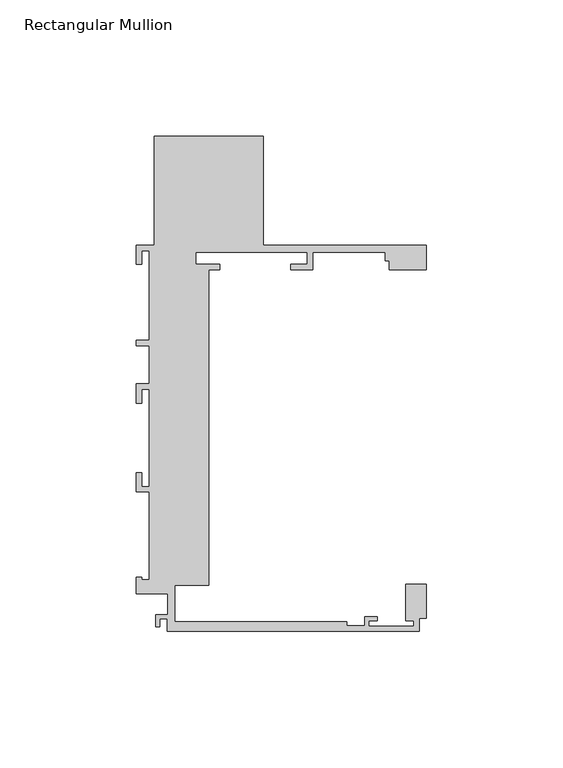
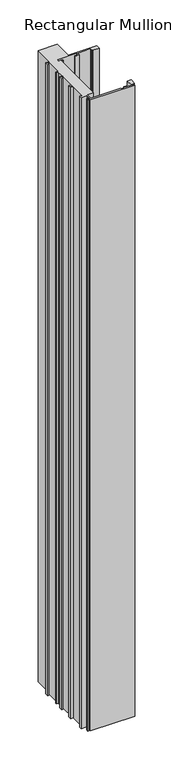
"""IFC4 building model written with IfcOpenShell, lengths in millimetres: member geometry, Rectangular Mullion : Danpal_K12_Middle-Mullion_B1."""

from ifc_helpers import new_model, si_unit, frame, origin, place, context, project, spatial, polyline, outline, extrude, source, transform, mapped, element, save


def rectangular_mullion_623c11ca(model_context):
    return source(origin(), model_context, "Body", "SweptSolid", [
        extrude(outline(polyline([(-24.173135, 117.8676658), (-24.173135, 1.9446289), (-36.6885087, 1.9446289), (-36.6885087, -11.3051512), (26.3590216, -11.3051512), (26.3590216, -12.8051513), (33.1059015, -12.8051513), (33.1059015, -9.5051512), (37.6059015, -9.5051512), (37.6059015, -11.0051513), (34.6059015, -11.0051513), (34.6059015, -13.0051512), (51.1059014, -13.0051512), (51.1059014, -11.0051513), (48.1059014, -11.0051513), (48.1059014, 2.316674), (55.6176464, 2.316674), (55.6176464, -10.065304), (53.1059014, -10.065304), (53.1059014, -14.8051514), (-39.3921425, -14.8051514), (-39.3921425, -10.3006425), (-42.1422367, -10.3006425), (-42.1422367, -13.3051514), (-43.6422367, -13.3051514), (-43.6422367, -8.8006425), (-39.1885087, -8.8006425), (-39.1885087, -1.0551514), (-50.7940962, -1.0551514), (-50.7940962, 4.9448486), (-48.7940962, 4.9448486), (-48.7940962, 3.9448486), (-45.9940962, 3.9448486), (-45.9940962, 36.2443486), (-50.7940962, 36.2443486), (-50.7940962, 43.2443486), (-48.7940962, 43.2443486), (-48.7940962, 38.2443486), (-45.9940962, 38.2443486), (-45.9940962, 73.8676657), (-48.7940962, 73.8676657), (-48.7940962, 68.8676657), (-50.7940962, 68.8676657), (-50.7940962, 75.867683), (-45.9940962, 75.867683), (-45.9940962, 89.8676485), (-50.7940962, 89.8676485), (-50.7940962, 91.8676485), (-45.9940962, 91.8676485), (-45.9940962, 124.7676657), (-48.7940962, 124.7676657), (-48.7940962, 119.7676657), (-50.7940962, 119.7676657), (-50.7940962, 126.7676657), (-44.1940962, 126.7676657), (-44.1940962, 166.7676657), (-4.1940962, 166.7676657), (-4.1940962, 126.7676657), (55.6176464, 126.7676657), (55.6176464, 117.6986749), (42.0287205, 117.6986749), (42.0287205, 121.0676175), (40.4959313, 121.0676175), (40.4959313, 124.2676658), (13.9409313, 124.2676658), (13.9409313, 117.8676658), (5.9409313, 117.8676658), (5.9409313, 119.8676658), (11.9409313, 119.8676658), (11.9409313, 124.2676658), (-28.9590961, 124.2676658), (-28.9590961, 119.8676658), (-20.1940961, 119.8676658), (-20.1940961, 117.8676658), (-24.173135, 117.8676658)])), frame((0.0, 0.0, -1398.4118076), z_axis=(0.0, 0.0, 1.0), x_axis=(1.0, 0.0, 0.0)), (0.0, 0.0, 1.0), 1398.4118076),
    ])


if __name__ == "__main__":
    model = new_model("IFC4")
    model_context = context("Model", 3, world=origin())
    ifc_project = project(units=[si_unit("LENGTHUNIT", "METRE", prefix="MILLI")], contexts=[model_context])
    site = spatial("IfcSite", under=ifc_project)
    building = spatial("IfcBuilding", under=site)
    placement = place(None, origin())
    rectangular_mullion_shape = rectangular_mullion_623c11ca(model_context)
    element("IfcMember", 1, ObjectType="Rectangular Mullion : Danpal_K12_Middle-Mullion_B1", at=placement, inside=building, context=model_context, shape_type="MappedRepresentation", body=[
        mapped(rectangular_mullion_shape, transform((0.0, 0.0, 0.0), x_axis=(1.0, 0.0, 0.0), y_axis=(0.0, 1.0, 0.0), z_axis=(0.0, 0.0, 1.0))),
    ])
    save(model, "model.ifc")
